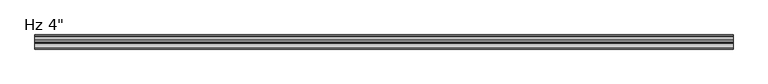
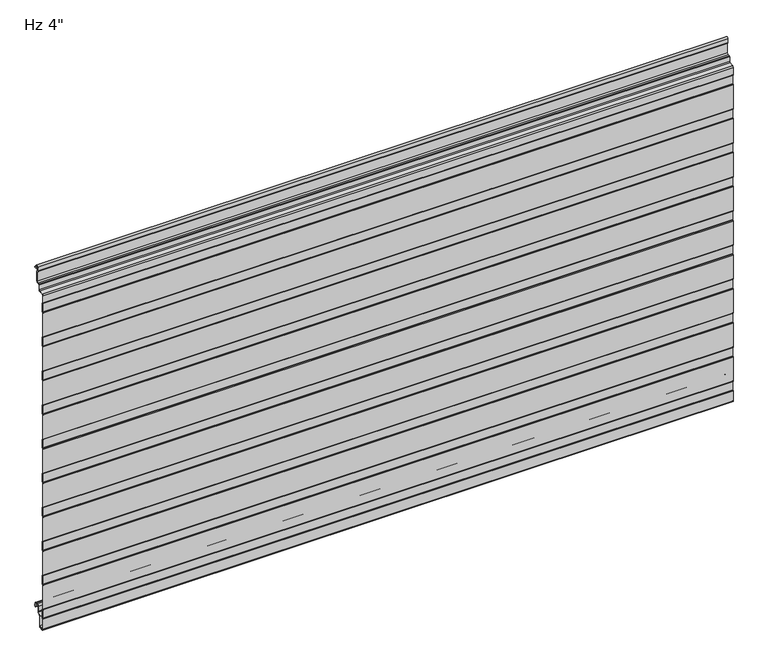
"""IFC4 building model written with IfcOpenShell, lengths in millimetres: plate geometry."""

from ifc_helpers import new_model, si_unit, point, frame, frame_2d, origin, place, context, project, spatial, polyline, circle_curve, trimmed, segment, composite_curve, outline, extrude, source, transform, mapped, element, save


def plate_59b1665d(model_context):
    return source(origin(), model_context, "Body", "SweptSolid", [
        extrude(outline(composite_curve([segment(trimmed(circle_curve(frame_2d((-100.1998717, -10.6415934)), 1.3998661), [point((-101.5997378, -10.6415934))], [point((-101.1324955, -9.5976403))], False, "CARTESIAN"), True, "CONTINUOUS"), segment(polyline([(-101.1324955, -9.5976403), (-100.3997693, -8.8649141), (-100.3997693, 10.0260713), (-101.1327349, 10.7590369)]), True, "CONTINUOUS"), segment(trimmed(circle_curve(frame_2d((-100.2000237, 11.8030877)), 1.3999972), [point((-101.1327349, 10.7590369))], [point((-101.6, 11.810741))], False, "CARTESIAN"), True, "CONTINUOUS"), segment(polyline([(-101.6, 11.810741), (-101.6, 65.5582542)]), True, "CONTINUOUS"), segment(trimmed(circle_curve(frame_2d((-100.2000028, 65.5582542)), 1.3999972), [point((-101.6, 65.5582542))], [point((-101.132714, 66.602305))], False, "CARTESIAN"), True, "CONTINUOUS"), segment(polyline([(-101.132714, 66.602305), (-100.3997693, 67.3352497), (-100.3997693, 86.2259189), (-101.1327349, 86.9588845)]), True, "CONTINUOUS"), segment(trimmed(circle_curve(frame_2d((-100.2000237, 88.0029353)), 1.3999972), [point((-101.1327349, 86.9588845))], [point((-101.6, 88.0105886))], False, "CARTESIAN"), True, "CONTINUOUS"), segment(polyline([(-101.6, 88.0105886), (-101.6, 141.7581018)]), True, "CONTINUOUS"), segment(trimmed(circle_curve(frame_2d((-100.2000028, 141.7581018)), 1.3999972), [point((-101.6, 141.7581018))], [point((-101.132714, 142.8021526))], False, "CARTESIAN"), True, "CONTINUOUS"), segment(polyline([(-101.132714, 142.8021526), (-100.3997693, 143.5350973), (-100.3997693, 162.4257665), (-101.1327349, 163.1587321)]), True, "CONTINUOUS"), segment(trimmed(circle_curve(frame_2d((-100.2000237, 164.2027829)), 1.3999972), [point((-101.1327349, 163.1587321))], [point((-101.6, 164.2104362))], False, "CARTESIAN"), True, "CONTINUOUS"), segment(polyline([(-101.6, 164.2104362), (-101.6, 217.9579494)]), True, "CONTINUOUS"), segment(trimmed(circle_curve(frame_2d((-100.2000028, 217.9579494)), 1.3999972), [point((-101.6, 217.9579494))], [point((-101.132714, 219.0020002))], False, "CARTESIAN"), True, "CONTINUOUS"), segment(polyline([(-101.132714, 219.0020002), (-100.3997693, 219.7349449), (-100.3997693, 238.6256141), (-101.1327349, 239.3585797)]), True, "CONTINUOUS"), segment(trimmed(circle_curve(frame_2d((-100.2000237, 240.4026305)), 1.3999972), [point((-101.1327349, 239.3585797))], [point((-101.6, 240.4102838))], False, "CARTESIAN"), True, "CONTINUOUS"), segment(polyline([(-101.6, 240.4102838), (-101.6, 294.157797)]), True, "CONTINUOUS"), segment(trimmed(circle_curve(frame_2d((-100.2000028, 294.157797)), 1.3999972), [point((-101.6, 294.157797))], [point((-101.132714, 295.2018478))], False, "CARTESIAN"), True, "CONTINUOUS"), segment(polyline([(-101.132714, 295.2018478), (-100.3997693, 295.9347925), (-100.3997693, 314.8254617), (-101.1327349, 315.5584273)]), True, "CONTINUOUS"), segment(trimmed(circle_curve(frame_2d((-100.2000237, 316.6024781)), 1.3999972), [point((-101.1327349, 315.5584273))], [point((-101.6, 316.6101314))], False, "CARTESIAN"), True, "CONTINUOUS"), segment(polyline([(-101.6, 316.6101314), (-101.6, 370.3576446)]), True, "CONTINUOUS"), segment(trimmed(circle_curve(frame_2d((-100.2000028, 370.3576446)), 1.3999972), [point((-101.6, 370.3576446))], [point((-101.132714, 371.4016954))], False, "CARTESIAN"), True, "CONTINUOUS"), segment(polyline([(-101.132714, 371.4016954), (-100.3997693, 372.1346401), (-100.3997693, 391.0253093), (-101.1327349, 391.7582749)]), True, "CONTINUOUS"), segment(trimmed(circle_curve(frame_2d((-100.2000237, 392.8023257)), 1.3999972), [point((-101.1327349, 391.7582749))], [point((-101.6, 392.809979))], False, "CARTESIAN"), True, "CONTINUOUS"), segment(polyline([(-101.6, 392.809979), (-101.6, 446.5574922)]), True, "CONTINUOUS"), segment(trimmed(circle_curve(frame_2d((-100.2000028, 446.5574922)), 1.3999972), [point((-101.6, 446.5574922))], [point((-101.132714, 447.601543))], False, "CARTESIAN"), True, "CONTINUOUS"), segment(polyline([(-101.132714, 447.601543), (-100.3997693, 448.3344877), (-100.3997693, 467.2251569), (-101.1327349, 467.9581225)]), True, "CONTINUOUS"), segment(trimmed(circle_curve(frame_2d((-100.2000237, 469.0021733)), 1.3999972), [point((-101.1327349, 467.9581225))], [point((-101.6, 469.0098266))], False, "CARTESIAN"), True, "CONTINUOUS"), segment(polyline([(-101.6, 469.0098266), (-101.6, 522.7573398)]), True, "CONTINUOUS"), segment(trimmed(circle_curve(frame_2d((-100.2000028, 522.7573398)), 1.3999972), [point((-101.6, 522.7573398))], [point((-101.132714, 523.8013906))], False, "CARTESIAN"), True, "CONTINUOUS"), segment(polyline([(-101.132714, 523.8013906), (-100.3997693, 524.5343353), (-100.3997693, 543.4250045), (-101.1327349, 544.1579701)]), True, "CONTINUOUS"), segment(trimmed(circle_curve(frame_2d((-100.2000237, 545.2020209)), 1.3999972), [point((-101.1327349, 544.1579701))], [point((-101.6, 545.2096742))], False, "CARTESIAN"), True, "CONTINUOUS"), segment(polyline([(-101.6, 545.2096742), (-101.6, 598.9571874)]), True, "CONTINUOUS"), segment(trimmed(circle_curve(frame_2d((-100.2000028, 598.9571874)), 1.3999972), [point((-101.6, 598.9571874))], [point((-101.132714, 600.0012382))], False, "CARTESIAN"), True, "CONTINUOUS"), segment(polyline([(-101.132714, 600.0012382), (-100.3997693, 600.7341829), (-100.3997693, 619.6248521), (-101.1327349, 620.3578177)]), True, "CONTINUOUS"), segment(trimmed(circle_curve(frame_2d((-100.2000237, 621.4018685)), 1.3999972), [point((-101.1327349, 620.3578177))], [point((-101.6, 621.4095218))], False, "CARTESIAN"), True, "CONTINUOUS"), segment(polyline([(-101.6, 621.4095218), (-101.6, 675.157035)]), True, "CONTINUOUS"), segment(trimmed(circle_curve(frame_2d((-100.2000028, 675.157035)), 1.3999972), [point((-101.6, 675.157035))], [point((-101.132714, 676.2010858))], False, "CARTESIAN"), True, "CONTINUOUS"), segment(polyline([(-101.132714, 676.2010858), (-100.3997693, 676.9340305), (-100.3997693, 695.8246997), (-101.1327349, 696.5576653)]), True, "CONTINUOUS"), segment(trimmed(circle_curve(frame_2d((-100.2000237, 697.6017161)), 1.3999972), [point((-101.1327349, 696.5576653))], [point((-101.5990984, 697.6525313))], False, "CARTESIAN"), True, "CONTINUOUS"), segment(polyline([(-101.5990984, 697.6525313), (-101.5990984, 713.5384359)]), True, "CONTINUOUS"), segment(trimmed(circle_curve(frame_2d((-98.6491043, 713.5384359)), 2.9499941), [point((-101.5990984, 713.5384359))], [point((-98.9062132, 716.4772044))], False, "CARTESIAN"), True, "CONTINUOUS"), segment(polyline([(-98.9062132, 716.4772044), (-90.4419168, 717.2177344)]), True, "CONTINUOUS"), segment(trimmed(circle_curve(frame_2d((-90.6188426, 719.2400056)), 2.0299959), [point((-90.4419168, 717.2177344))], [point((-88.5914567, 719.3429135))], True, "CARTESIAN"), True, "CONTINUOUS"), segment(polyline([(-88.5914567, 719.3429135), (-88.5914567, 729.4595941)]), True, "CONTINUOUS"), segment(trimmed(circle_curve(frame_2d((-86.6423033, 729.4595941)), 1.9491534), [point((-88.5914567, 729.4595941))], [point((-86.6423033, 731.4087475))], False, "CARTESIAN"), True, "CONTINUOUS"), segment(polyline([(-86.6423033, 731.4087475), (-83.5009036, 731.4087475)]), True, "CONTINUOUS"), segment(trimmed(circle_curve(frame_2d((-83.5009036, 734.4087415)), 2.999994), [point((-83.5009036, 731.4087475))], [point((-80.5009096, 734.4087415))], True, "CARTESIAN"), True, "CONTINUOUS"), segment(polyline([(-80.5009096, 734.4087415), (-80.5009096, 755.0122013), (-81.7467537, 755.7314897)]), True, "CONTINUOUS"), segment(trimmed(circle_curve(frame_2d((-81.0217552, 756.987224)), 1.4499971), [point((-81.7467537, 755.7314897))], [point((-82.4709833, 757.0344401))], False, "CARTESIAN"), True, "CONTINUOUS"), segment(polyline([(-82.4709833, 757.0344401), (-82.126075, 765.7463704)]), True, "CONTINUOUS"), segment(trimmed(circle_curve(frame_2d((-79.0266291, 765.6236622)), 3.1018739), [point((-82.126075, 765.7463704))], [point((-75.9275082, 765.7543204))], False, "CARTESIAN"), True, "CONTINUOUS"), segment(polyline([(-75.9275082, 765.7543204), (-75.6837214, 761.7587)]), True, "CONTINUOUS"), segment(trimmed(circle_curve(frame_2d((-74.8434917, 761.8099653)), 0.8417922), [point((-75.6837214, 761.7587))], [point((-74.8729389, 760.9686884))], True, "CARTESIAN"), True, "CONTINUOUS"), segment(polyline([(-74.8729389, 760.9686884), (-72.1025061, 760.9686884), (-72.1025061, 759.9686884), (-74.8870527, 759.9686884)]), True, "CONTINUOUS"), segment(trimmed(circle_curve(frame_2d((-74.8434917, 761.8099653)), 1.8417922), [point((-74.8870527, 759.9686884))], [point((-76.6818653, 761.6977997))], False, "CARTESIAN"), True, "CONTINUOUS"), segment(polyline([(-76.6818653, 761.6977997), (-76.9262802, 765.7037148)]), True, "CONTINUOUS"), segment(trimmed(circle_curve(frame_2d((-79.0266291, 765.6236622)), 2.1018739), [point((-76.9262802, 765.7037148))], [point((-81.1268578, 765.706811))], True, "CARTESIAN"), True, "CONTINUOUS"), segment(polyline([(-81.1268578, 765.706811), (-81.4821181, 756.7334028), (-79.5009096, 755.5895515), (-79.5009096, 734.4087415)]), True, "CONTINUOUS"), segment(trimmed(circle_curve(frame_2d((-83.5009036, 734.4087415)), 3.999994), [point((-79.5009096, 734.4087415))], [point((-83.5009036, 730.4087475))], False, "CARTESIAN"), True, "CONTINUOUS"), segment(polyline([(-83.5009036, 730.4087475), (-86.6423033, 730.4087475)]), True, "CONTINUOUS"), segment(trimmed(circle_curve(frame_2d((-86.6423033, 729.4595941)), 0.9491534), [point((-86.6423033, 730.4087475))], [point((-87.5914567, 729.4595941))], True, "CARTESIAN"), True, "CONTINUOUS"), segment(polyline([(-87.5914567, 729.4595941), (-87.5914567, 719.3657441)]), True, "CONTINUOUS"), segment(trimmed(circle_curve(frame_2d((-90.6188426, 719.2400056)), 3.0299959), [point((-87.5914567, 719.3657441))], [point((-90.354761, 716.2215397))], False, "CARTESIAN"), True, "CONTINUOUS"), segment(polyline([(-90.354761, 716.2215397), (-98.8190575, 715.4810097)]), True, "CONTINUOUS"), segment(trimmed(circle_curve(frame_2d((-98.6491043, 713.5384359)), 1.9499941), [point((-98.8190575, 715.4810097))], [point((-100.5990984, 713.5384359))], True, "CARTESIAN"), True, "CONTINUOUS"), segment(polyline([(-100.5990984, 713.5384359), (-100.5990984, 697.4396652), (-99.3997693, 696.2403361), (-99.3997693, 676.5209236), (-100.6, 675.3206929), (-100.6, 621.2405611), (-99.3997693, 620.0403304), (-99.3997693, 600.3209179), (-100.6, 599.1206872), (-100.6, 545.0405554), (-99.3997693, 543.8403247), (-99.3997693, 524.1209122), (-100.6, 522.9206815), (-100.6, 468.8405497), (-99.3997693, 467.640319), (-99.3997693, 447.9209065), (-100.6, 446.7206758), (-100.6, 392.640544), (-99.3997693, 391.4403133), (-99.3997693, 371.7209008), (-100.6, 370.5206701), (-100.6, 316.4405383), (-99.3997693, 315.2403076), (-99.3997693, 295.5208951), (-100.6, 294.3206644), (-100.6, 240.2405326), (-99.3997693, 239.0403019), (-99.3997693, 219.3208894), (-100.6, 218.1206587), (-100.6, 164.0405269), (-99.3997693, 162.8402962), (-99.3997693, 143.1208837), (-100.6, 141.920653), (-100.6, 87.8405213), (-99.3997693, 86.6402905), (-99.3997693, 66.920878), (-100.6, 65.7206473), (-100.6, 11.6405156), (-99.3997693, 10.4402849), (-99.3997693, -9.2791277), (-100.5997378, -10.4790962), (-100.5997378, -32.4521176)]), True, "CONTINUOUS"), segment(trimmed(circle_curve(frame_2d((-98.0294985, -32.4521176)), 2.5702393), [point((-100.5997378, -32.4521176))], [point((-97.8054129, -35.0125699))], True, "CARTESIAN"), True, "CONTINUOUS"), segment(polyline([(-97.8054129, -35.0125699), (-92.823592, -34.5765709)]), True, "CONTINUOUS"), segment(trimmed(circle_curve(frame_2d((-93.3049826, -31.9198392)), 2.6999926), [point((-92.823592, -34.5765709))], [point((-90.60499, -31.9198392))], True, "CARTESIAN"), True, "CONTINUOUS"), segment(polyline([(-90.60499, -31.9198392), (-90.60499, -9.8247096), (-85.1029189, -4.3226385)]), True, "CONTINUOUS"), segment(trimmed(circle_curve(frame_2d((-86.3049966, -3.1205608)), 1.6999946), [point((-85.1029189, -4.3226385))], [point((-84.605002, -3.1205608))], True, "CARTESIAN"), True, "CONTINUOUS"), segment(polyline([(-84.605002, -3.1205608), (-84.605002, 8.6903283)]), True, "CONTINUOUS"), segment(trimmed(circle_curve(frame_2d((-81.2550067, 8.6903283)), 3.3499953), [point((-84.605002, 8.6903283))], [point((-81.2550067, 12.0403236))], False, "CARTESIAN"), True, "CONTINUOUS"), segment(polyline([(-81.2550067, 12.0403236), (-76.8550155, 12.0403236)]), True, "CONTINUOUS"), segment(trimmed(circle_curve(frame_2d((-76.8550155, 8.6903283)), 3.3499953), [point((-76.8550155, 12.0403236))], [point((-73.5050202, 8.6903283))], False, "CARTESIAN"), True, "CONTINUOUS"), segment(polyline([(-73.5050202, 8.6903283), (-73.5050202, 5.9912173), (-72.1065413, 5.9912173), (-72.1065413, 2.2328239)]), True, "CONTINUOUS"), segment(trimmed(circle_curve(frame_2d((-73.306538, 2.2313092)), 1.1999976), [point((-72.1065413, 2.2328239))], [point((-73.2760161, 1.0316999))], False, "CARTESIAN"), True, "CONTINUOUS"), segment(trimmed(circle_curve(frame_2d((-73.306538, 2.2313092)), 1.1999976), [point((-73.2760161, 1.0316999))], [point((-74.5050202, 2.1710221))], False, "CARTESIAN"), True, "CONTINUOUS"), segment(polyline([(-74.5050202, 2.1710221), (-74.5050202, 8.6903283)]), True, "CONTINUOUS"), segment(trimmed(circle_curve(frame_2d((-76.8550155, 8.6903283)), 2.3499953), [point((-74.5050202, 8.6903283))], [point((-76.8550155, 11.0403236))], True, "CARTESIAN"), True, "CONTINUOUS"), segment(polyline([(-76.8550155, 11.0403236), (-81.2550067, 11.0403236)]), True, "CONTINUOUS"), segment(trimmed(circle_curve(frame_2d((-81.2550067, 8.6903283)), 2.3499953), [point((-81.2550067, 11.0403236))], [point((-83.605002, 8.6903283))], True, "CARTESIAN"), True, "CONTINUOUS"), segment(polyline([(-83.605002, 8.6903283), (-83.605002, -3.1205608)]), True, "CONTINUOUS"), segment(trimmed(circle_curve(frame_2d((-86.3049966, -3.1205608)), 2.6999946), [point((-83.605002, -3.1205608))], [point((-84.3958121, -5.0297453))], False, "CARTESIAN"), True, "CONTINUOUS"), segment(polyline([(-84.3958121, -5.0297453), (-89.2242296, -9.8581627)]), True, "CONTINUOUS"), segment(trimmed(circle_curve(frame_2d((-88.3049926, -10.7773997)), 1.2999974), [point((-89.2242296, -9.8581627))], [point((-89.60499, -10.7773997))], True, "CARTESIAN"), True, "CONTINUOUS"), segment(polyline([(-89.60499, -10.7773997), (-89.60499, -31.9198392)]), True, "CONTINUOUS"), segment(trimmed(circle_curve(frame_2d((-93.3049826, -31.9198392)), 3.6999926), [point((-89.60499, -31.9198392))], [point((-92.6941815, -35.5690675))], False, "CARTESIAN"), True, "CONTINUOUS"), segment(polyline([(-92.6941815, -35.5690675), (-97.7182281, -36.008762)]), True, "CONTINUOUS"), segment(trimmed(circle_curve(frame_2d((-98.0294985, -32.4521176)), 3.5702393), [point((-97.7182281, -36.008762))], [point((-101.5997378, -32.4521176))], False, "CARTESIAN"), True, "CONTINUOUS"), segment(polyline([(-101.5997378, -32.4521176), (-101.5997378, -10.6415934)]), True, "CONTINUOUS")], self_intersect=False)), frame((-730.0, 0.0, 0.0), z_axis=(1.0, 0.0, 0.0), x_axis=(0.0, 1.0, 0.0)), (0.0, 0.0, 1.0), 1460.0),
    ])


if __name__ == "__main__":
    model = new_model("IFC4")
    model_context = context("Model", 3, world=origin())
    ifc_project = project(units=[si_unit("LENGTHUNIT", "METRE", prefix="MILLI")], contexts=[model_context])
    site = spatial("IfcSite", under=ifc_project)
    building = spatial("IfcBuilding", under=site)
    placement = place(None, origin())
    plate_shape = plate_59b1665d(model_context)
    element("IfcPlate", 1, ObjectType="KIP-30-Karrier-KP-R19-CP-Hz-SL_SL : Hz 4\"", at=placement, inside=building, context=model_context, shape_type="MappedRepresentation", body=[
        mapped(plate_shape, transform((0.0, 0.0, 0.0), x_axis=(1.0, 0.0, 0.0), y_axis=(0.0, 1.0, 0.0), z_axis=(0.0, 0.0, 1.0))),
    ])
    save(model, "model.ifc")
